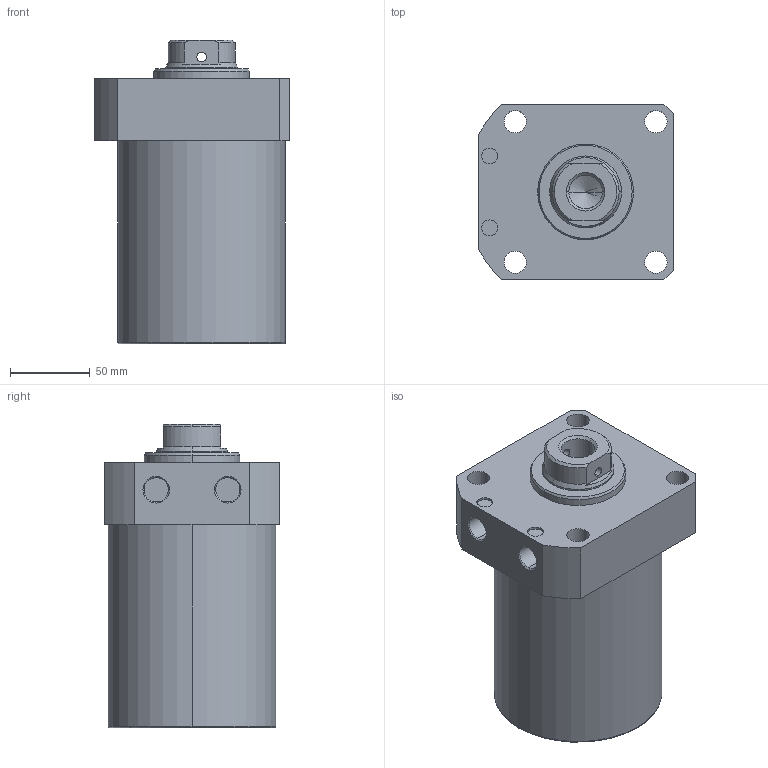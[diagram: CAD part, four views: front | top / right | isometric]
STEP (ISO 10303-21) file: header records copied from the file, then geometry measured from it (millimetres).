
FILE_DESCRIPTION (( 'STEP AP203' ), '1' );
FILE_NAME ('CLLR-105CB-080.STEP', '2019-12-18T07:24:28', ( '' ), ( '' ), 'SwSTEP 2.0', 'SolidWorks 2015', '' );
FILE_SCHEMA (( 'CONFIG_CONTROL_DESIGN' ));
Length unit declared in the file: millimetre
Products named in the file (1): CLLR-105CB-080
Bounding box: 122 x 110 x 190 mm (x, y, z)
Volume: 1596423.1 mm3; surface area: 100655.7 mm2
Topology: 1 solids, 1 shells, 69 faces, 165 edges, 104 vertices
Faces by surface type: cylinder 33, plane 19, cone 15, torus 2
Entity records: 2227 total; most frequent: CARTESIAN_POINT 481, DIRECTION 372, ORIENTED_EDGE 326, EDGE_CURVE 163, AXIS2_PLACEMENT_3D 151, VERTEX_POINT 104, EDGE_LOOP 89, CIRCLE 81
